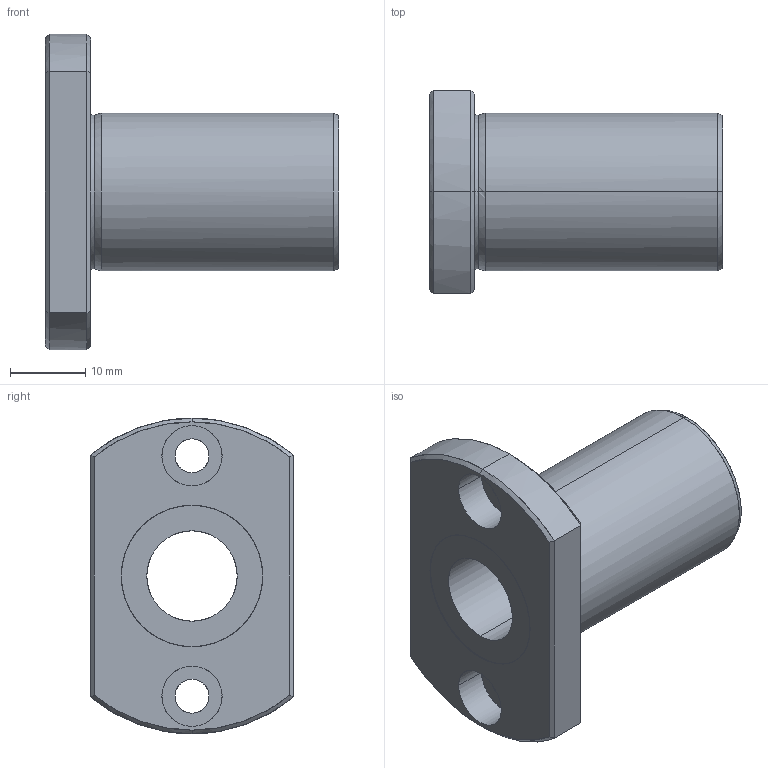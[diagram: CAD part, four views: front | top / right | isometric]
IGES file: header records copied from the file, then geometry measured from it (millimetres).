
Global section: file name: No Iges File Name specified; native system: AutoDesk Inventor R10; preprocessor: AutoDesk Inventor Iges Exporter R10; author: No Author specified; organization: No Organization specified; date: 20101216.173252; units: millimetre
Bounding box: 39 x 27 x 42 mm (x, y, z)
Surface area: 6390.5 mm2 (no closed solid volume)
Topology: 0 solids, 0 shells, 47 faces, 280 edges, 280 vertices
Faces by surface type: bspline 47
